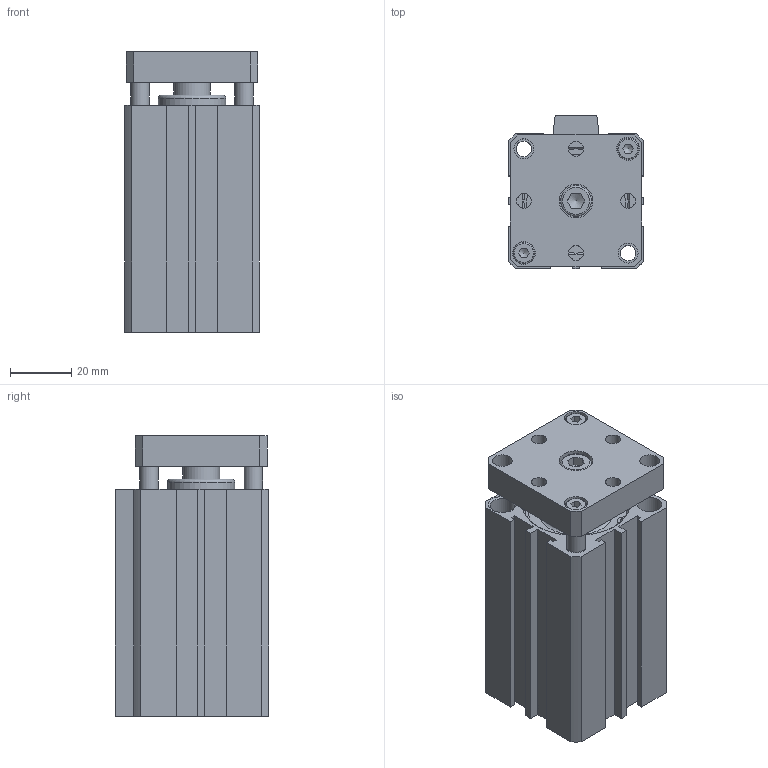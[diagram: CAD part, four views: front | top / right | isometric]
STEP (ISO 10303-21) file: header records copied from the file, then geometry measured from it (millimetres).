
FILE_DESCRIPTION((''),'2;1');
FILE_NAME('I:\3D電子目錄\氣缸\JTD\JTD\JTD32\JTD32x50.stp','2007-08-09T20:29:32',('Administrator'),(''),'Autodesk Inventor 11','Autodesk Inventor 11','');
FILE_SCHEMA(('AUTOMOTIVE_DESIGN { 1 0 10303 214 1 1 1 1 }'));
Length unit declared in the file: millimetre
Products named in the file (5): JTD32; R 形環 35; ISO 4762 M6 x 10; ISO 4762 M4 x 10
Assembly tree (6 placements, depth 2):
  JTD32
    JTD32
    R 形環 35  x2
    ISO 4762 M6 x 10
    ISO 4762 M4 x 10  x2
Bounding box: 44 x 50 x 91.5 mm (x, y, z)
Volume: 140466 mm3; surface area: 40283.7 mm2
Topology: 6 solids, 6 shells, 201 faces, 465 edges, 305 vertices
Faces by surface type: plane 114, cylinder 51, bspline 19, cone 12, torus 5
Full cylindrical faces by diameter (mm): 1.9 x4, 2.2 x2, 4 x2, 5.1 x2, 6 x3, 6.5 x4, 7 x2, 8 x4, 10 x1, 12 x1, 22 x1, 23 x1, 34 x4, 36 x2
Entity records: 5049 total; most frequent: CARTESIAN_POINT 1119, DIRECTION 784, ORIENTED_EDGE 684, EDGE_CURVE 342, AXIS2_PLACEMENT_3D 287, EDGE_LOOP 284, VERTEX_POINT 260, VECTOR 210
